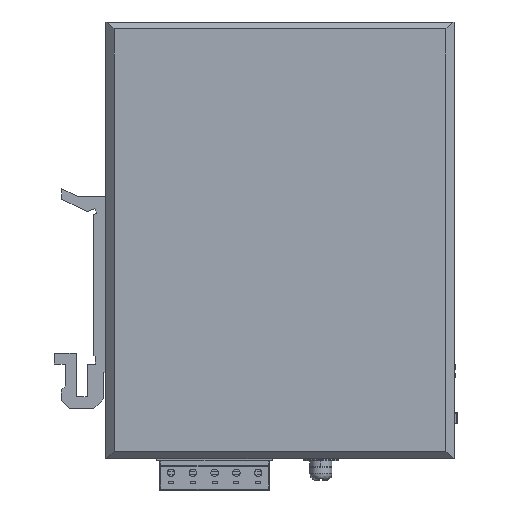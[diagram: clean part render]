
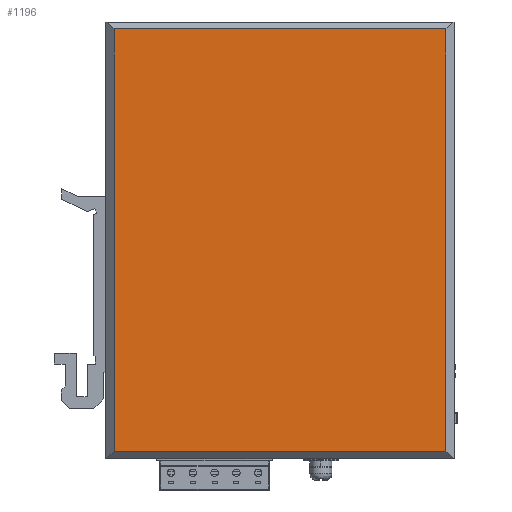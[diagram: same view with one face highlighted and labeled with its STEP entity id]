
A CAD part, left-side view. The second image highlights one B-rep face of the part: STEP entity #1196.
In plain terms, the highlighted planar face has unit normal (-1, 0, 0).
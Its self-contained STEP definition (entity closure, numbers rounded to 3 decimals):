
#33=DIRECTION('',(0.,0.,1.));
#34=VECTOR('',#33,96.7);
#35=CARTESIAN_POINT('',(-22.,2.,-48.3));
#36=LINE('',#35,#34);
#117=DIRECTION('',(0.,1.,0.));
#118=VECTOR('',#117,76.);
#119=CARTESIAN_POINT('',(-22.,2.,48.4));
#120=LINE('',#119,#118);
#121=DIRECTION('',(0.,1.,0.));
#122=VECTOR('',#121,76.);
#123=CARTESIAN_POINT('',(-22.,2.,-48.3));
#124=LINE('',#123,#122);
#133=DIRECTION('',(0.,0.,-1.));
#134=VECTOR('',#133,96.7);
#135=CARTESIAN_POINT('',(-22.,78.,48.4));
#136=LINE('',#135,#134);
#858=CARTESIAN_POINT('',(-22.,2.,-48.3));
#860=VERTEX_POINT('',#858);
#861=CARTESIAN_POINT('',(-22.,2.,48.4));
#862=VERTEX_POINT('',#861);
#867=CARTESIAN_POINT('',(-22.,78.,-48.3));
#868=VERTEX_POINT('',#867);
#895=CARTESIAN_POINT('',(-22.,78.,48.4));
#896=VERTEX_POINT('',#895);
#1184=CARTESIAN_POINT('',(-22.,0.,-50.));
#1185=DIRECTION('',(-1.,0.,0.));
#1186=DIRECTION('',(0.,0.,1.));
#1187=AXIS2_PLACEMENT_3D('',#1184,#1185,#1186);
#1188=PLANE('',#1187);
#1189=ORIENTED_EDGE('',*,*,#1064,.T.);
#1191=ORIENTED_EDGE('',*,*,#1190,.F.);
#1192=ORIENTED_EDGE('',*,*,#1176,.F.);
#1193=ORIENTED_EDGE('',*,*,#1042,.F.);
#1194=EDGE_LOOP('',(#1189,#1191,#1192,#1193));
#1195=FACE_OUTER_BOUND('',#1194,.F.);
#1196=ADVANCED_FACE('',(#1195),#1188,.T.);
#1042=EDGE_CURVE('',#860,#862,#36,.T.);
#1064=EDGE_CURVE('',#860,#868,#124,.T.);
#1176=EDGE_CURVE('',#862,#896,#120,.T.);
#1190=EDGE_CURVE('',#896,#868,#136,.T.);
